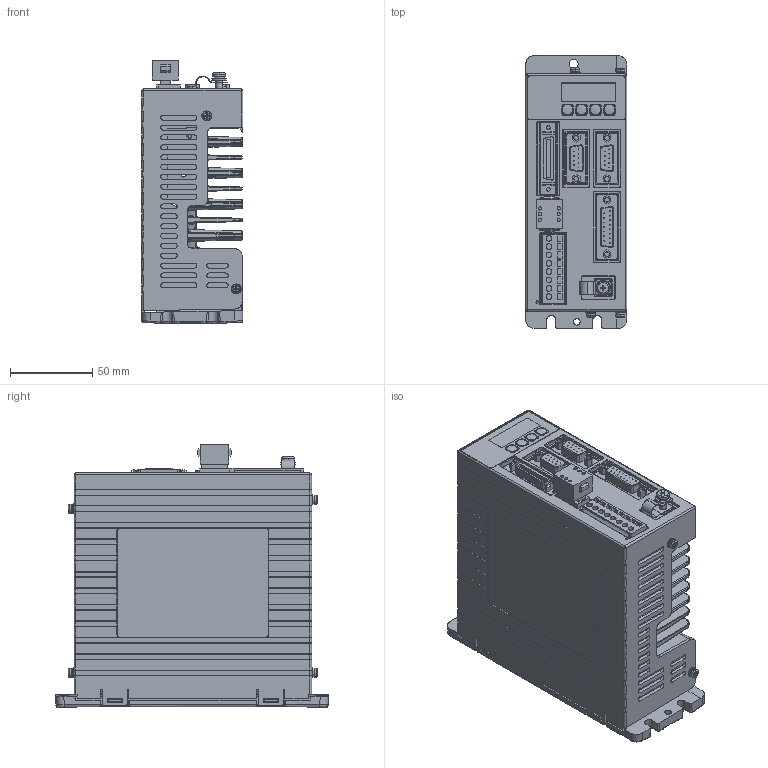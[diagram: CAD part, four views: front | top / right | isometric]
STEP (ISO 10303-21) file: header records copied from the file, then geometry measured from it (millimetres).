
FILE_DESCRIPTION (( 'STEP AP214' ), '1' );
FILE_NAME ('FD422S-AA_K04_3D.STEP', '2021-10-27T09:24:21', ( 'o' ), ( 'o' ), 'SwSTEP 2.0', 'SolidWorks 2014', '' );
FILE_SCHEMA (( 'AUTOMOTIVE_DESIGN' ));
Products named in the file (1): FD422S-AA_K04_3D
Bounding box: 62 x 166 x 159.98 mm (x, y, z)
Surface area: 209525 mm2
Topology: 7 solids, 8 shells, 3227 faces, 8383 edges, 5258 vertices
Faces by surface type: cylinder 1210, plane 1120, bspline 797, cone 97, torus 3
Entity records: 155771 total; most frequent: CARTESIAN_POINT 88342, ORIENTED_EDGE 16702, DIRECTION 9764, EDGE_CURVE 8351, VERTEX_POINT 5258, B_SPLINE_CURVE_WITH_KNOTS 3940, EDGE_LOOP 3485, VECTOR 3314
